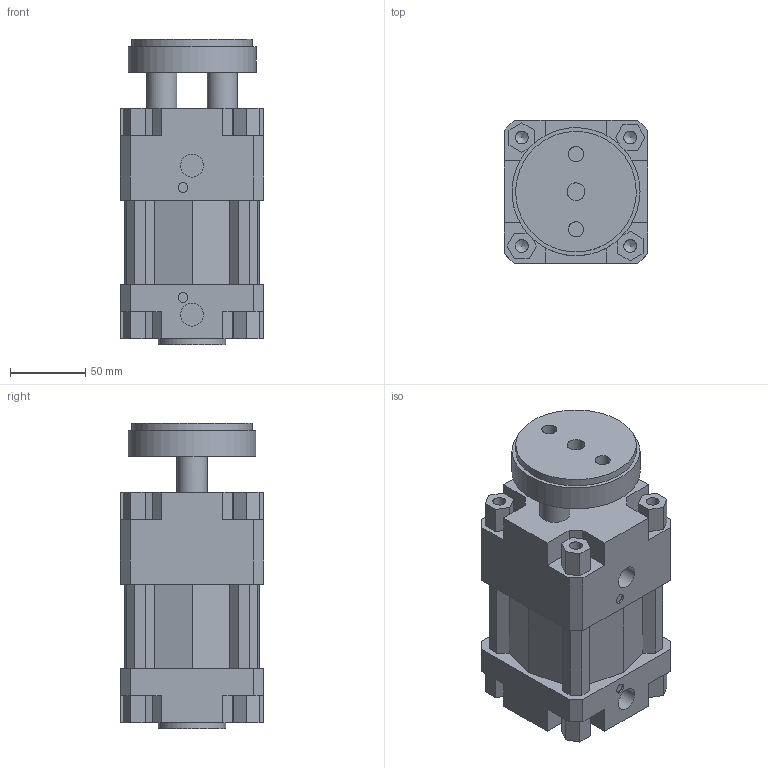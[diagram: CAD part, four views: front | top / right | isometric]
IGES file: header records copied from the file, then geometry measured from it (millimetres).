
Global section: file name: 134#_080_0000_01; native system: Autodesk Inventor 2014; preprocessor: unknown; author: A. Manieri; date: 20161006.165142; units: millimetre
Bounding box: 95 x 95 x 203 mm (x, y, z)
Volume: 1312207.9 mm3; surface area: 176041.6 mm2
Topology: 2 solids, 2 shells, 180 faces, 491 edges, 335 vertices
Faces by surface type: bspline 180
